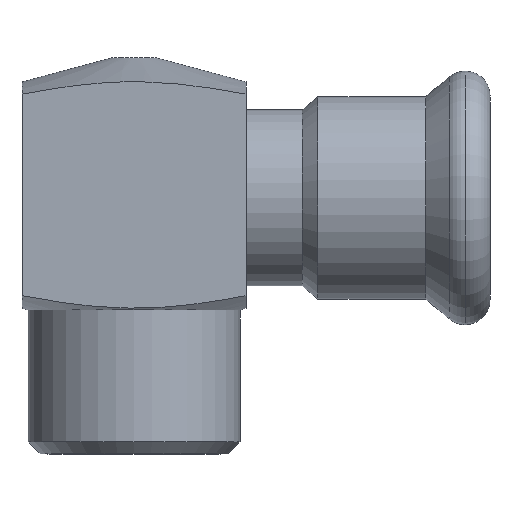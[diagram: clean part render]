
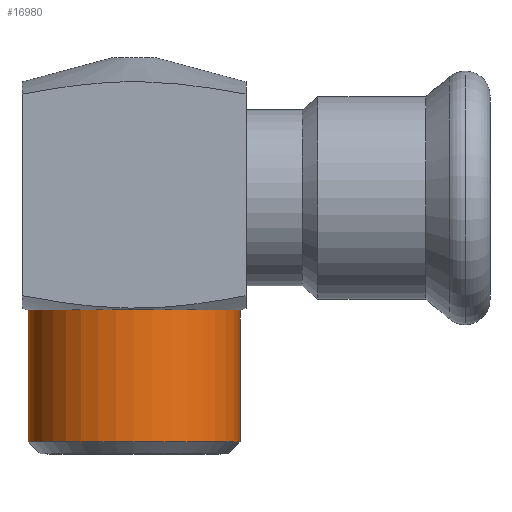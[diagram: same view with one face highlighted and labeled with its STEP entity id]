
A CAD part, top view. The second image highlights one B-rep face of the part: STEP entity #16980.
In plain terms, the highlighted cylindrical face has radius 13.25 mm (diameter 26.5 mm), a partial arc.
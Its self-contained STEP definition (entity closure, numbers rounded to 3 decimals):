
#4180=CARTESIAN_POINT('',(300.,-414.,0.));
#4190=DIRECTION('',(0.,-1.,0.));
#4200=DIRECTION('',(-1.,0.,0.));
#4210=AXIS2_PLACEMENT_3D('',#4180,#4190,#4200);
#4220=CIRCLE('',#4210,13.25);
#4230=CARTESIAN_POINT('',(286.75,-414.,0.));
#4240=VERTEX_POINT('',#4230);
#4250=CARTESIAN_POINT('',(313.25,-414.,0.));
#4260=VERTEX_POINT('',#4250);
#4290=EDGE_CURVE('',#4260,#4240,#4220,.T.);
#16310=CARTESIAN_POINT('',(286.75,-430.5,0.));
#16320=VERTEX_POINT('',#16310);
#16350=CARTESIAN_POINT('',(300.,-430.5,0.));
#16360=DIRECTION('',(0.,-1.,0.));
#16370=DIRECTION('',(-1.,0.,0.));
#16380=AXIS2_PLACEMENT_3D('',#16350,#16360,#16370);
#16390=CIRCLE('',#16380,13.25);
#16400=CARTESIAN_POINT('',(313.25,-430.5,0.));
#16410=VERTEX_POINT('',#16400);
#16420=EDGE_CURVE('',#16410,#16320,#16390,.T.);
#16770=CARTESIAN_POINT('',(300.,-416.,0.));
#16780=DIRECTION('',(0.,-1.,0.));
#16790=DIRECTION('',(-1.,0.,0.));
#16800=AXIS2_PLACEMENT_3D('',#16770,#16780,#16790);
#16810=CYLINDRICAL_SURFACE('',#16800,13.25);
#16820=CARTESIAN_POINT('',(313.25,-416.,0.));
#16830=DIRECTION('',(0.,-1.,0.));
#16840=VECTOR('',#16830,1.);
#16850=LINE('',#16820,#16840);
#16860=EDGE_CURVE('',#4260,#16410,#16850,.T.);
#16870=ORIENTED_EDGE('',*,*,#16860,.F.);
#16880=ORIENTED_EDGE('',*,*,#16420,.F.);
#16890=CARTESIAN_POINT('',(286.75,-416.,0.));
#16900=DIRECTION('',(0.,-1.,0.));
#16910=VECTOR('',#16900,1.);
#16920=LINE('',#16890,#16910);
#16930=EDGE_CURVE('',#4240,#16320,#16920,.T.);
#16940=ORIENTED_EDGE('',*,*,#16930,.T.);
#16950=ORIENTED_EDGE('',*,*,#4290,.T.);
#16960=EDGE_LOOP('',(#16950,#16940,#16880,#16870));
#16970=FACE_OUTER_BOUND('',#16960,.T.);
#16980=ADVANCED_FACE('',(#16970),#16810,.T.);
